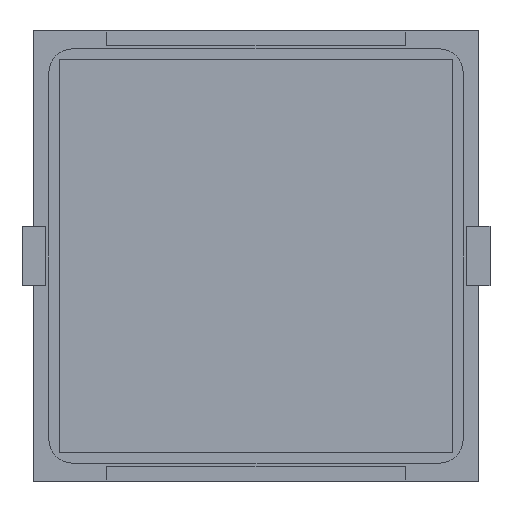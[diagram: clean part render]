
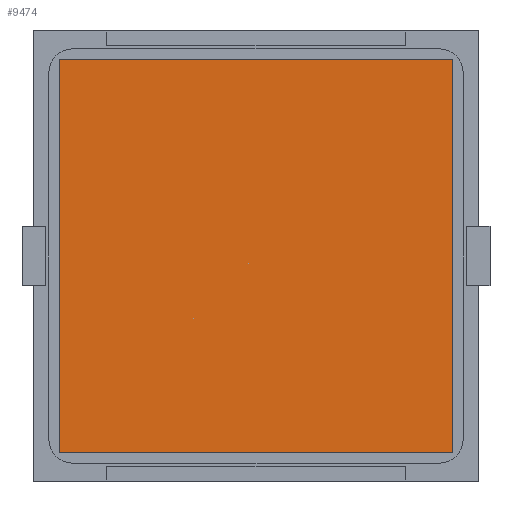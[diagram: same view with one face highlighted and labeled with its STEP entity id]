
A CAD part, front view. The second image highlights one B-rep face of the part: STEP entity #9474.
In plain terms, the highlighted planar face has unit normal (0, -1, 0).
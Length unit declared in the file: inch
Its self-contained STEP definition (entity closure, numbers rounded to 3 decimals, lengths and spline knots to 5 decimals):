
#990 = DIRECTION ( 'NONE',  ( -1., 0., 0. ) ) ;
#1389 = FACE_OUTER_BOUND ( 'NONE', #7099, .T. ) ;
#1805 = DIRECTION ( 'NONE',  ( 0., 0., -1. ) ) ;
#1881 = DIRECTION ( 'NONE',  ( 0., 0., 1. ) ) ;
#1933 = VECTOR ( 'NONE', #3839, 39.37008 ) ;
#2006 = CARTESIAN_POINT ( 'NONE',  ( 0.64961, -0.005, 0.64961 ) ) ;
#2501 = EDGE_CURVE ( 'NONE', #10927, #10259, #13530, .T. ) ;
#2798 = PLANE ( 'NONE',  #9515 ) ;
#2956 = LINE ( 'NONE', #7960, #8971 ) ;
#3839 = DIRECTION ( 'NONE',  ( 1., 0., 0. ) ) ;
#4342 = CARTESIAN_POINT ( 'NONE',  ( 0.64961, -0.005, -0.64961 ) ) ;
#5071 = ORIENTED_EDGE ( 'NONE', *, *, #6582, .T. ) ;
#6357 = ORIENTED_EDGE ( 'NONE', *, *, #13580, .T. ) ;
#6428 = DIRECTION ( 'NONE',  ( 0., -1., 0. ) ) ;
#6582 = EDGE_CURVE ( 'NONE', #7037, #15700, #9720, .T. ) ;
#6957 = VECTOR ( 'NONE', #1881, 39.37008 ) ;
#7037 = VERTEX_POINT ( 'NONE', #13550 ) ;
#7099 = EDGE_LOOP ( 'NONE', ( #6357, #5071, #13199, #15405 ) ) ;
#7960 = CARTESIAN_POINT ( 'NONE',  ( -0.64961, -0.005, -0.64961 ) ) ;
#8971 = VECTOR ( 'NONE', #1805, 39.37008 ) ;
#9120 = CARTESIAN_POINT ( 'NONE',  ( 0.64961, -0.005, 0.64961 ) ) ;
#9474 = ADVANCED_FACE ( 'NONE', ( #1389 ), #2798, .T. ) ;
#9515 = AXIS2_PLACEMENT_3D ( 'NONE', #9120, #6428, #12565 ) ;
#9562 = EDGE_CURVE ( 'NONE', #15700, #10927, #2956, .T. ) ;
#9720 = LINE ( 'NONE', #2006, #10239 ) ;
#9807 = CARTESIAN_POINT ( 'NONE',  ( -0.64961, -0.005, -0.64961 ) ) ;
#10239 = VECTOR ( 'NONE', #990, 39.37008 ) ;
#10259 = VERTEX_POINT ( 'NONE', #12837 ) ;
#10927 = VERTEX_POINT ( 'NONE', #9807 ) ;
#12565 = DIRECTION ( 'NONE',  ( 0., 0., 1. ) ) ;
#12837 = CARTESIAN_POINT ( 'NONE',  ( 0.64961, -0.005, -0.64961 ) ) ;
#13199 = ORIENTED_EDGE ( 'NONE', *, *, #9562, .T. ) ;
#13443 = CARTESIAN_POINT ( 'NONE',  ( 0.64961, -0.005, -0.64961 ) ) ;
#13530 = LINE ( 'NONE', #13443, #1933 ) ;
#13550 = CARTESIAN_POINT ( 'NONE',  ( 0.64961, -0.005, 0.64961 ) ) ;
#13580 = EDGE_CURVE ( 'NONE', #10259, #7037, #14432, .T. ) ;
#14432 = LINE ( 'NONE', #4342, #6957 ) ;
#15405 = ORIENTED_EDGE ( 'NONE', *, *, #2501, .T. ) ;
#15700 = VERTEX_POINT ( 'NONE', #15886 ) ;
#15886 = CARTESIAN_POINT ( 'NONE',  ( -0.64961, -0.005, 0.64961 ) ) ;
